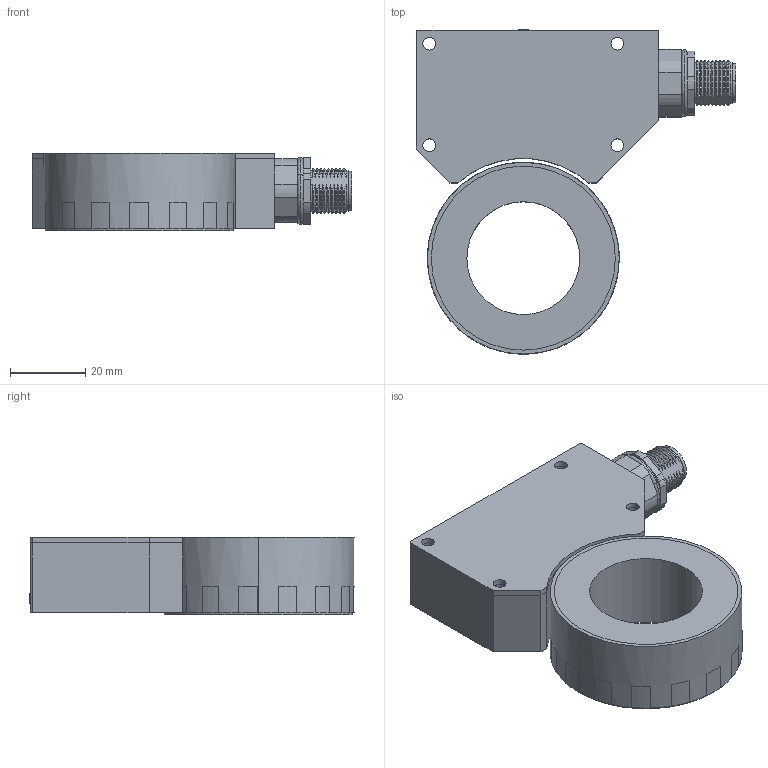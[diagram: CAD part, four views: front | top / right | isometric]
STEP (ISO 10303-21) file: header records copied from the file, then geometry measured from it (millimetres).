
FILE_DESCRIPTION (( 'STEP AP214' ), '1' );
FILE_NAME ('Z_RLA50.xxxx.xxxx.xxxx.STEP', '2016-11-30T14:59:23', ( '' ), ( '' ), 'SwSTEP 2.0', 'SolidWorks 2013', '' );
FILE_SCHEMA (( 'AUTOMOTIVE_DESIGN' ));
Length unit declared in the file: millimetre
Products named in the file (1): Z_RLA50.xxxx.xxxx.xxxx
Bounding box: 85 x 86.19 x 20.6 mm (x, y, z)
Surface area: 19106 mm2 (no closed solid volume)
Topology: 0 solids, 21 shells, 242 faces, 735 edges, 482 vertices
Faces by surface type: cylinder 113, plane 77, cone 36, bspline 16
Entity records: 11012 total; most frequent: CARTESIAN_POINT 1880, DIRECTION 1399, ORIENTED_EDGE 1258, EDGE_CURVE 711, AXIS2_PLACEMENT_3D 529, VERTEX_POINT 482, LINE 341, VECTOR 341
